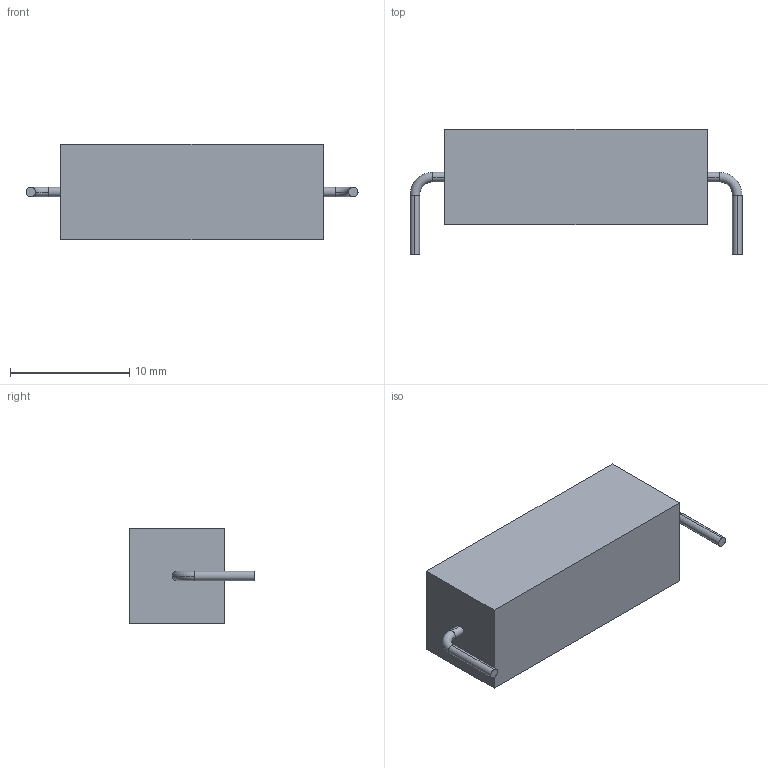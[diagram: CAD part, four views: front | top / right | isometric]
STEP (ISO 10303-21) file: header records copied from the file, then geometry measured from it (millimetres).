
FILE_DESCRIPTION (( 'STEP AP214' ), '1' );
FILE_NAME ('SQP-3.STEP', '2011-11-21T07:25:49', ( 'vpeshkov' ), ( 'ELCORT' ), 'SwSTEP 2.0', 'SolidWorks 2009', '' );
FILE_SCHEMA (( 'AUTOMOTIVE_DESIGN' ));
Length unit declared in the file: millimetre
Products named in the file (1): SQP-3
Bounding box: 27.8 x 10.5 x 8 mm (x, y, z)
Volume: 1416.4 mm3; surface area: 874 mm2
Topology: 1 solids, 1 shells, 20 faces, 48 edges, 32 vertices
Faces by surface type: cylinder 8, plane 8, torus 4
Entity records: 788 total; most frequent: DIRECTION 118, CARTESIAN_POINT 101, ORIENTED_EDGE 96, AXIS2_PLACEMENT_3D 49, EDGE_CURVE 48, VERTEX_POINT 32, CIRCLE 28, EDGE_LOOP 22
